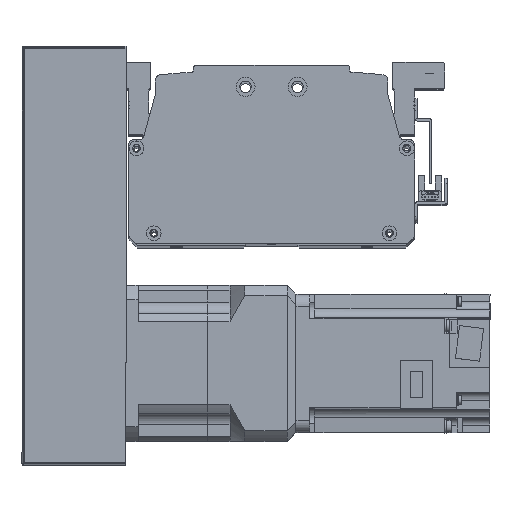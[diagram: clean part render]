
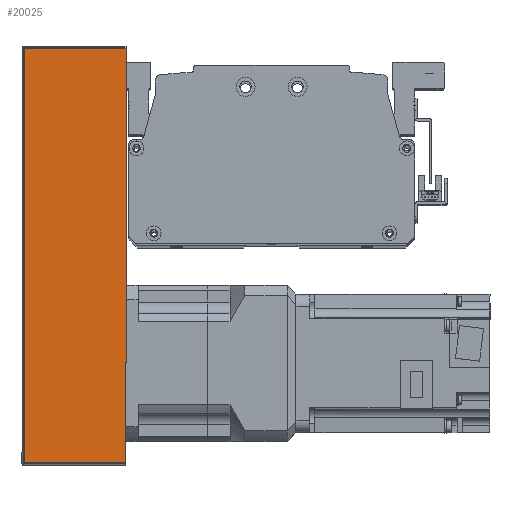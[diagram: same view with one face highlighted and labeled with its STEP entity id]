
A CAD part, top view. The second image highlights one B-rep face of the part: STEP entity #20025.
In plain terms, the highlighted planar face has unit normal (0, 0, 1) as drawn and (0, 1, 0) by its records, which use the part's own axes.
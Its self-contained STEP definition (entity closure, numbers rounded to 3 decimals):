
#589=PLANE('',#21839);
#1717=LINE('',#32165,#3377);
#1739=LINE('',#32258,#3399);
#1741=LINE('',#32268,#3401);
#1743=LINE('',#32271,#3403);
#3377=VECTOR('',#26028,10.);
#3399=VECTOR('',#26148,10.);
#3401=VECTOR('',#26162,10.);
#3403=VECTOR('',#26166,10.);
#5382=FACE_OUTER_BOUND('',#6806,.T.);
#6806=EDGE_LOOP('',(#16252,#16253,#16254,#16255));
#9672=VERTEX_POINT('',#32162);
#9673=VERTEX_POINT('',#32164);
#9694=VERTEX_POINT('',#32252);
#9697=VERTEX_POINT('',#32264);
#12030=EDGE_CURVE('',#9672,#9673,#1717,.T.);
#12078=EDGE_CURVE('',#9694,#9672,#1739,.T.);
#12083=EDGE_CURVE('',#9673,#9697,#1741,.T.);
#12085=EDGE_CURVE('',#9697,#9694,#1743,.T.);
#16252=ORIENTED_EDGE('',*,*,#12078,.F.);
#16253=ORIENTED_EDGE('',*,*,#12085,.F.);
#16254=ORIENTED_EDGE('',*,*,#12083,.F.);
#16255=ORIENTED_EDGE('',*,*,#12030,.F.);
#20025=ADVANCED_FACE('',(#5382),#589,.T.);
#21839=AXIS2_PLACEMENT_3D('',#32277,#26174,#26175);
#26028=DIRECTION('',(-1.,0.,0.));
#26148=DIRECTION('',(0.,0.,1.));
#26162=DIRECTION('',(0.,0.,-1.));
#26166=DIRECTION('',(1.,0.,0.));
#26174=DIRECTION('center_axis',(0.,1.,0.));
#26175=DIRECTION('ref_axis',(-1.,0.,0.));
#32162=CARTESIAN_POINT('',(120.,51.,30.));
#32164=CARTESIAN_POINT('',(-120.,51.,30.));
#32165=CARTESIAN_POINT('',(-121.,51.,30.));
#32252=CARTESIAN_POINT('',(120.,51.,-29.));
#32258=CARTESIAN_POINT('',(120.,51.,0.));
#32264=CARTESIAN_POINT('',(-120.,51.,-29.));
#32268=CARTESIAN_POINT('',(-120.,51.,0.));
#32271=CARTESIAN_POINT('',(60.5,51.,-29.));
#32277=CARTESIAN_POINT('Origin',(121.,51.,0.));
